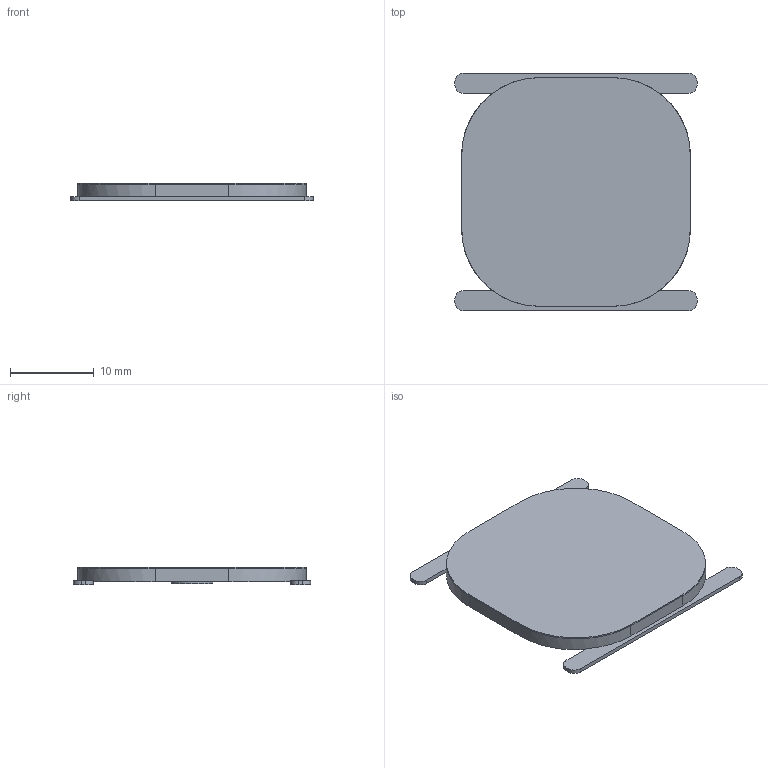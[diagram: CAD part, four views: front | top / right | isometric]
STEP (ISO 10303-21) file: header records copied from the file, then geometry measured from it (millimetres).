
FILE_DESCRIPTION(('Open CASCADE Model'),'2;1');
FILE_NAME('C27_R2_03_Front_Action_Rigid_Carrier','2026-09-09T17:52:55',( 'Author'),('Open CASCADE'),'Open CASCADE STEP processor 7.9', 'build123d','Unknown');
FILE_SCHEMA(('AUTOMOTIVE_DESIGN { 1 0 10303 214 1 1 1 1 }'));
Length unit declared in the file: millimetre
Products named in the file (2): C27_R2_03_Front_Action_Rigid_Carrier
Assembly tree (1 placements, depth 2):
  C27_R2_03_Front_Action_Rigid_Carrier
    C27_R2_03_Front_Action_Rigid_Carrier
Bounding box: 29 x 28.4 x 2.15 mm (x, y, z)
Volume: 1251.3 mm3; surface area: 1722.7 mm2
Topology: 1 solids, 1 shells, 40 faces, 103 edges, 66 vertices
Faces by surface type: plane 19, cylinder 17, torus 4
Full cylindrical faces by diameter (mm): 5 x1
Entity records: 2615 total; most frequent: CARTESIAN_POINT 475, DIRECTION 422, LINE 233, VECTOR 233, ORIENTED_EDGE 206, PCURVE 206, DEFINITIONAL_REPRESENTATION 206, EDGE_CURVE 103
